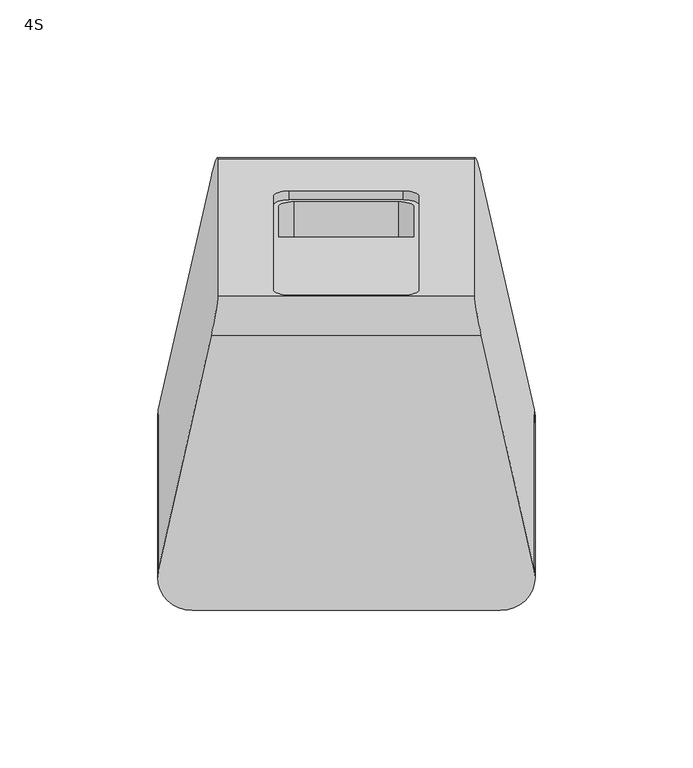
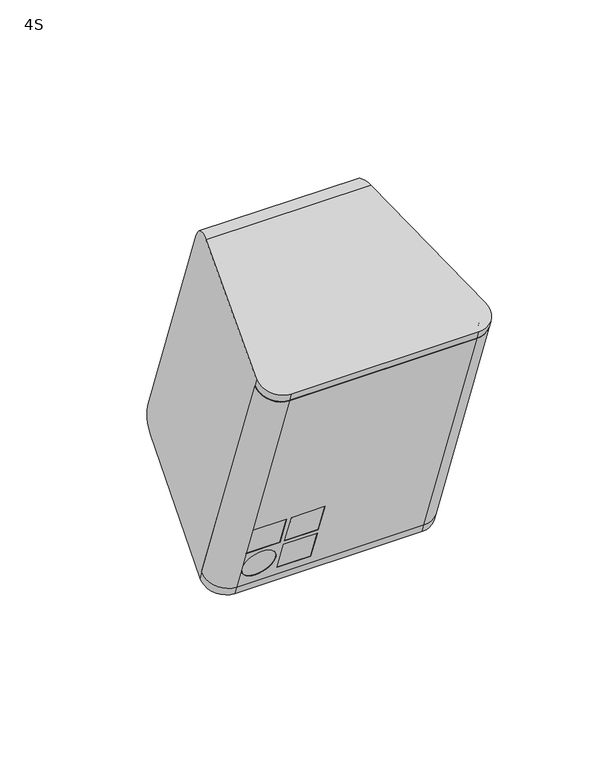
"""IFC4 building model written with IfcOpenShell, lengths in millimetres: proxy geometry, d&b xS-Series 4S Point Source : 4S."""

from ifc_helpers import new_model, si_unit, point, frame, frame_2d, origin, place, context, project, spatial, polyline, circle_curve, ellipse_curve, trimmed, segment, composite_curve, outline, extrude, source, transform, mapped, element, save
from ifc_brep_helpers import plane_surface, cylinder_surface, revolved_surface, advanced_brep


def proxy_4s_959aaee8(model_context):
    return source(origin(), model_context, "Body", "SolidModel", [
        extrude(outline(composite_curve([segment(polyline([(-2.2870286, -11.5470262), (-2.2870286, 97.3792888)]), True, "CONTINUOUS"), segment(trimmed(circle_curve(frame_2d((0.0, 91.8322626)), 6.0), [point((-2.2870286, 97.3792888))], [point((6.0, 91.8322626))], False, "CARTESIAN"), True, "CONTINUOUS"), segment(polyline([(6.0, 91.8322626), (6.0, -6.0)]), True, "CONTINUOUS"), segment(trimmed(circle_curve(frame_2d((0.0, -6.0)), 6.0), [point((6.0, -6.0))], [point((-2.2870286, -11.5470262))], False, "CARTESIAN"), True, "CONTINUOUS")], self_intersect=False)), frame((-42.9161313, -13.6462948, -79.4592892), z_axis=(0.0, -0.34202014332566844, 0.9396926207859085), x_axis=(0.0, -0.9396926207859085, -0.34202014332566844)), (0.0, 0.0, 1.0), 140.0),
        advanced_brep(
        [(-31.1772445, -38.5187697, -43.2845744), (-31.1772445, -33.8203066, -41.5744737), (-31.1772445, -27.8349541, -58.0190945), (-31.1772445, -32.5334172, -59.7291952), (-48.6772445, -27.8349541, -58.0190945), (-48.6772445, -32.5334172, -59.7291952), (-48.6772445, -33.8203066, -41.5744737), (-48.6772445, -38.5187697, -43.2845744), (-11.1772445, -38.5187697, -43.2845744), (-11.1772445, -33.8203066, -41.5744737), (-11.1772445, -27.8349541, -58.0190945), (-11.1772445, -32.5334172, -59.7291952), (-28.6772445, -27.8349541, -58.0190945), (-28.6772445, -32.5334172, -59.7291952), (-28.6772445, -33.8203066, -41.5744737), (-28.6772445, -38.5187697, -43.2845744), (-11.1772445, -31.6783669, -62.0784268), (-11.1772445, -26.9799037, -60.3683261), (-11.1772445, -20.9945512, -76.8129469), (-11.1772445, -25.6930143, -78.5230477), (-28.6772445, -20.9945512, -76.8129469), (-28.6772445, -25.6930143, -78.5230477), (-28.6772445, -26.9799037, -60.3683261), (-28.6772445, -31.6783669, -62.0784268), (-39.9272445, -25.6930143, -78.5230477), (-39.9272445, -20.9945512, -76.8129469), (-39.9272445, -26.9799037, -60.3683261), (-39.9272445, -31.6783669, -62.0784268), (48.9161313, -71.8657337, 48.3354561), (59.6757549, -59.380011, 52.8798876), (54.4631575, -59.380011, 52.8798876), (48.9161313, -67.1672706, 50.0455569), (-48.9161313, -67.1672706, 50.0455569), (-54.4631575, -59.380011, 52.8798876), (-59.6757549, -59.380011, 52.8798876), (-48.9161313, -71.8657337, 48.3354561), (48.9161313, -23.9829136, -83.2215108), (-48.9161313, -23.9829136, -83.2215108), (-59.6757549, -11.4971909, -78.6770793), (-54.4631575, -11.4971909, -78.6770793), (-48.9161313, -19.2844505, -81.51141), (48.9161313, -19.2844505, -81.51141), (54.4631575, -11.4971909, -78.6770793), (59.6757549, -11.4971909, -78.6770793)],
        [
            (0, 1),
            (1, 2),
            (2, 3),
            (3, 0),
            (2, 4),
            (4, 5),
            (5, 3),
            (4, 6),
            (6, 7),
            (7, 5),
            (0, 7),
            (6, 1),
            (8, 9),
            (9, 10),
            (10, 11),
            (11, 8),
            (10, 12),
            (12, 13),
            (13, 11),
            (12, 14),
            (14, 15),
            (15, 13),
            (8, 15),
            (14, 9),
            (16, 17),
            (17, 18),
            (18, 19),
            (19, 16),
            (18, 20),
            (20, 21),
            (21, 19),
            (20, 22),
            (22, 23),
            (23, 21),
            (16, 23),
            (22, 17),
            (24, 25),
            (25, 26, circle_curve(frame((-39.9272445, -23.9872275, -68.5906365), z_axis=(0.0, 0.939692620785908, 0.34202014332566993), x_axis=(0.0, -0.34202014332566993, 0.939692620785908)), 8.75)),
            (26, 27),
            (27, 24, circle_curve(frame((-39.9272445, -28.6856906, -70.3007372), z_axis=(0.0, -0.939692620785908, -0.34202014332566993), x_axis=(0.0, -0.34202014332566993, 0.939692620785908)), 8.75)),
            (24, 27, circle_curve(frame((-39.9272445, -28.6856906, -70.3007372), z_axis=(0.0, -0.939692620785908, -0.34202014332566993), x_axis=(0.0, -0.34202014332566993, 0.939692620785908)), 8.75)),
            (26, 25, circle_curve(frame((-39.9272445, -23.9872275, -68.5906365), z_axis=(0.0, 0.939692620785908, 0.34202014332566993), x_axis=(0.0, -0.34202014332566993, 0.939692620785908)), 8.75)),
            (28, 29, circle_curve(frame((48.9161313, -61.5291149, 52.0976777), z_axis=(0.0, -0.34202014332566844, 0.9396926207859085), x_axis=(0.0, -0.9396926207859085, -0.34202014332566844)), 11.0)),
            (29, 30),
            (30, 31, circle_curve(frame((48.9161313, -61.5291149, 52.0976777), z_axis=(0.0, 0.34202014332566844, -0.9396926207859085), x_axis=(0.0, -0.9396926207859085, -0.34202014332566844)), 6.0)),
            (31, 32),
            (32, 33, circle_curve(frame((-48.9161313, -61.5291149, 52.0976777), z_axis=(0.0, 0.34202014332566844, -0.9396926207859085), x_axis=(0.0, -0.9396926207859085, -0.34202014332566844)), 6.0)),
            (33, 34),
            (34, 35, circle_curve(frame((-48.9161313, -61.5291149, 52.0976777), z_axis=(0.0, -0.34202014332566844, 0.9396926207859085), x_axis=(0.0, -0.9396926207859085, -0.34202014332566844)), 11.0)),
            (35, 28),
            (36, 37),
            (37, 38, circle_curve(frame((-48.9161313, -13.6462948, -79.4592892), z_axis=(0.0, 0.34202014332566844, -0.9396926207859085), x_axis=(0.0, -0.9396926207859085, -0.34202014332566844)), 11.0)),
            (38, 39),
            (39, 40, circle_curve(frame((-48.9161313, -13.6462948, -79.4592892), z_axis=(0.0, -0.34202014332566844, 0.9396926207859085), x_axis=(0.0, -0.9396926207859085, -0.34202014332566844)), 6.0)),
            (40, 41),
            (41, 42, circle_curve(frame((48.9161313, -13.6462948, -79.4592892), z_axis=(0.0, -0.34202014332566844, 0.9396926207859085), x_axis=(0.0, -0.9396926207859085, -0.34202014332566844)), 6.0)),
            (42, 43),
            (43, 36, circle_curve(frame((48.9161313, -13.6462948, -79.4592892), z_axis=(0.0, 0.34202014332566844, -0.9396926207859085), x_axis=(0.0, -0.9396926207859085, -0.34202014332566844)), 11.0)),
            (28, 36),
            (43, 29),
            (42, 30),
            (41, 31),
            (40, 32),
            (39, 33),
            (38, 34),
            (37, 35),
        ],
        [
            plane_surface(frame((-31.1772445, -32.5334172, -59.7291952), z_axis=(-1.0000000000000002, 0.0, 0.0), x_axis=(0.0, 0.939692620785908, 0.34202014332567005))),
            plane_surface(frame((-48.6772445, -32.5334172, -59.7291952), z_axis=(0.0, -0.34202014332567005, 0.939692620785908), x_axis=(0.0, 0.939692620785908, 0.34202014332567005))),
            plane_surface(frame((-48.6772445, -38.5187697, -43.2845744), z_axis=(1.0000000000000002, 0.0, 0.0), x_axis=(0.0, 0.939692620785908, 0.34202014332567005))),
            plane_surface(frame((-31.1772445, -38.5187697, -43.2845744), z_axis=(0.0, 0.34202014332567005, -0.939692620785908), x_axis=(0.0, 0.939692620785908, 0.34202014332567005))),
            plane_surface(frame((-11.1772445, -32.5334172, -59.7291952), z_axis=(-1.0000000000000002, 0.0, 0.0), x_axis=(0.0, 0.939692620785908, 0.34202014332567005))),
            plane_surface(frame((-28.6772445, -32.5334172, -59.7291952), z_axis=(0.0, -0.34202014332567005, 0.939692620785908), x_axis=(0.0, 0.939692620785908, 0.34202014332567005))),
            plane_surface(frame((-28.6772445, -38.5187697, -43.2845744), z_axis=(1.0000000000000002, 0.0, 0.0), x_axis=(0.0, 0.939692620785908, 0.34202014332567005))),
            plane_surface(frame((-11.1772445, -38.5187697, -43.2845744), z_axis=(0.0, 0.34202014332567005, -0.939692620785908), x_axis=(0.0, 0.939692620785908, 0.34202014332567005))),
            plane_surface(frame((-11.1772445, -25.6930143, -78.5230477), z_axis=(-1.0000000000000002, 0.0, 0.0), x_axis=(0.0, 0.939692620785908, 0.34202014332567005))),
            plane_surface(frame((-28.6772445, -25.6930143, -78.5230477), z_axis=(0.0, -0.34202014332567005, 0.939692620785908), x_axis=(0.0, 0.939692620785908, 0.34202014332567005))),
            plane_surface(frame((-28.6772445, -31.6783669, -62.0784268), z_axis=(1.0000000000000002, 0.0, 0.0), x_axis=(0.0, 0.939692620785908, 0.34202014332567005))),
            plane_surface(frame((-11.1772445, -31.6783669, -62.0784268), z_axis=(0.0, 0.34202014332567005, -0.939692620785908), x_axis=(0.0, 0.939692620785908, 0.34202014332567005))),
            revolved_surface(polyline([(-39.9272445, -31.678366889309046, -62.07842682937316), (-39.9272445, -26.979903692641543, -60.36832607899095)]), (-39.9272445, -114.4304887, -101.5092915), (0.0, -0.939692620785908, -0.34202014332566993)),
            plane_surface(frame((48.9161313, -71.8657337, 48.3354561), z_axis=(0.0, -0.34202014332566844, 0.9396926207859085), x_axis=(1.0, 0.0, 0.0))),
            plane_surface(frame((48.9161313, -23.9829136, -83.2215108), z_axis=(0.0, 0.34202014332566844, -0.9396926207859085), x_axis=(-1.0, 0.0, 0.0))),
            cylinder_surface(frame((48.9161313, -13.6462948, -79.4592892), z_axis=(0.0, -0.34202014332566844, 0.9396926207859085), x_axis=(0.0, -0.9396926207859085, -0.34202014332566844)), 11.0),
            plane_surface(frame((59.6757549, -59.380011, 52.8798876), z_axis=(0.0, 0.9396926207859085, 0.34202014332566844), x_axis=(0.0, 0.34202014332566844, -0.9396926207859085))),
            revolved_surface(polyline([(48.9161313, -19.284450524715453, -81.51141005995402), (48.9161313, -67.16727060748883, 50.04555689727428)]), (48.9161313, -13.6462948, -79.4592892), (0.0, 0.34202014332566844, -0.9396926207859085)),
            plane_surface(frame((48.9161313, -67.1672706, 50.0455569), z_axis=(0.0, 0.9396926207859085, 0.34202014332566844), x_axis=(0.0, 0.34202014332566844, -0.9396926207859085))),
            revolved_surface(polyline([(-48.9161313, -19.284450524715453, -81.51141005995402), (-48.9161313, -67.16727060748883, 50.04555689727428)]), (-48.9161313, -13.6462948, -79.4592892), (0.0, 0.34202014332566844, -0.9396926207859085)),
            plane_surface(frame((-54.4631575, -59.380011, 52.8798876), z_axis=(0.0, 0.9396926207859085, 0.34202014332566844), x_axis=(0.0, 0.34202014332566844, -0.9396926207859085))),
            cylinder_surface(frame((-48.9161313, -13.6462948, -79.4592892), z_axis=(0.0, -0.34202014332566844, 0.9396926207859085), x_axis=(0.0, -0.9396926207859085, -0.34202014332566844)), 11.0),
            plane_surface(frame((-48.9161313, -71.8657337, 48.3354561), z_axis=(0.0, -0.9396926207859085, -0.34202014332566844), x_axis=(0.0, 0.34202014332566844, -0.9396926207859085))),
        ],
        [
            (0, [[1, 2, 3, 4]]),
            (1, [[-3, 5, 6, 7]]),
            (2, [[-6, 8, 9, 10]]),
            (3, [[-1, 11, -9, 12]]),
            (4, [[13, 14, 15, 16]]),
            (5, [[-15, 17, 18, 19]]),
            (6, [[-18, 20, 21, 22]]),
            (7, [[-13, 23, -21, 24]]),
            (8, [[25, 26, 27, 28]]),
            (9, [[-27, 29, 30, 31]]),
            (10, [[-30, 32, 33, 34]]),
            (11, [[-25, 35, -33, 36]]),
            (12, [[37, 38, 39, 40]]),
            (12, [[-37, 41, -39, 42]]),
            (13, [[43, 44, 45, 46, 47, 48, 49, 50]]),
            (14, [[51, 52, 53, 54, 55, 56, 57, 58]]),
            (15, [[-43, 59, -58, 60]]),
            (16, [[-44, -60, -57, 61]]),
            (17, [[-45, -61, -56, 62]]),
            (18, [[-46, -62, -55, 63], [-2, -12, -8, -5], [-14, -24, -20, -17], [-26, -36, -32, -29], [-38, -42]]),
            (19, [[-47, -63, -54, 64]]),
            (20, [[-48, -64, -53, 65]]),
            (21, [[-49, -65, -52, 66]]),
            (22, [[-50, -66, -51, -59], [-4, -7, -10, -11], [-16, -19, -22, -23], [-28, -31, -34, -35], [-40, -41]]),
        ],
    ),
        extrude(outline(polyline([(0.0, -17.5), (0.0, 0.0), (5.0, 0.0), (5.0, -17.5), (0.0, -17.5)])), frame((-48.6622558, -32.5334172, -59.7291952), z_axis=(0.0, -0.34202014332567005, 0.939692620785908), x_axis=(0.0, 0.939692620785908, 0.34202014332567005)), (0.0, 0.0, 1.0), 17.5),
        extrude(outline(polyline([(0.0, -17.5), (0.0, 0.0), (5.0, 0.0), (5.0, -17.5), (0.0, -17.5)])), frame((-28.6622558, -32.5334172, -59.7291952), z_axis=(0.0, -0.34202014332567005, 0.939692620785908), x_axis=(0.0, 0.939692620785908, 0.34202014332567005)), (0.0, 0.0, 1.0), 17.5),
        extrude(outline(polyline([(0.0, -17.5), (0.0, 0.0), (5.0, 0.0), (5.0, -17.5), (0.0, -17.5)])), frame((-28.6622558, -25.6930143, -78.5230477), z_axis=(0.0, -0.34202014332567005, 0.939692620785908), x_axis=(0.0, 0.939692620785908, 0.34202014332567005)), (0.0, 0.0, 1.0), 17.5),
        extrude(outline(composite_curve([segment(trimmed(circle_curve(frame_2d((-8.75, -28.7499999)), 8.75), [point((-8.75, -37.5))], [point((-8.75, -20.0))], False, "CARTESIAN"), True, "CONTINUOUS"), segment(trimmed(circle_curve(frame_2d((-8.75, -28.7499999)), 8.75), [point((-8.75, -20.0))], [point((-8.75, -37.5))], False, "CARTESIAN"), True, "CONTINUOUS")], self_intersect=False)), frame((-48.6622558, -38.5187697, -43.2845744), z_axis=(0.0, 0.939692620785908, 0.34202014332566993), x_axis=(-1.0, 0.0, 0.0)), (0.0, 0.0, 1.0), 5.0),
        advanced_brep(
        [(-23.0610927, 25.4630749, 70.3833879), (-18.0610927, 23.7529742, 75.081851), (18.0610927, 23.7529742, 75.081851), (23.0610927, 25.4630749, 70.3833879), (23.0610927, 55.0447249, -10.8915275), (18.0610927, 56.7548256, -15.5899906), (-18.0610927, 56.7548256, -15.5899906), (-23.0610927, 55.0447249, -10.8915275), (-16.4913486, 56.2179415, -14.1149137), (16.4913486, 56.2179415, -14.1149137), (21.4913486, 54.5078408, -9.4164506), (21.4913486, 45.1327614, 16.3413684), (-21.4913486, 45.1327614, 16.3413684), (-21.4913486, 54.5078408, -9.4164506), (-23.0610927, 28.2821528, 71.4094483), (-18.0610927, 26.5720521, 76.1079114), (18.0610927, 26.5720521, 76.1079114), (23.0610927, 28.2821528, 71.4094483), (23.0610927, 57.8638028, -9.8654671), (18.0610927, 59.5739035, -14.5639302), (-18.0610927, 59.5739035, -14.5639302), (-23.0610927, 57.8638028, -9.8654671), (16.4913486, 41.1828596, -19.587236), (-16.4913486, 41.1828596, -19.587236), (-21.4913486, 39.4727589, -14.8887729), (-21.4913486, 30.0976794, 10.8690461), (21.4913486, 30.0976794, 10.8690461), (21.4913486, 39.4727589, -14.8887729), (48.9161313, -71.8657337, 48.3354561), (-48.9161313, -71.8657337, 48.3354561), (-59.6757549, -59.380011, 52.8798876), (59.6757549, -59.380011, 52.8798876), (48.9161313, -23.9829136, -83.2215108), (59.6757549, -11.4971909, -78.6770793), (-59.6757549, -11.4971909, -78.6770793), (-48.9161313, -23.9829136, -83.2215108), (59.6757549, -9.8836267, -83.1103106), (42.9086571, 63.7833622, -54.8702565), (40.8192307, 69.6008131, -42.112638), (40.8192307, 26.2456822, 77.0046053), (42.9086571, 13.5888171, 83.0381227), (59.6757549, -60.9957272, 57.3190315), (-42.9086571, 63.7833622, -54.8702565), (-59.6757549, -9.8836267, -83.1103106), (-59.6757549, -60.9957272, 57.3190315), (-42.9086571, 13.5888171, 83.0381227), (-40.8192307, 26.2456822, 77.0046053), (-40.8192307, 69.6008131, -42.112638), (48.9161313, -73.5587263, 52.9869152), (-48.9161313, -73.5587263, 52.9869152), (48.9161313, -22.292073, -87.8670572), (-48.9161313, -22.292073, -87.8670572)],
        [
            (0, 1, circle_curve(frame((-18.0610927, 25.4630749, 70.3833879), z_axis=(0.0, 0.9396926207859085, 0.34202014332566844), x_axis=(-1.0, 0.0, 0.0)), 5.0)),
            (1, 2),
            (2, 3, circle_curve(frame((18.0610927, 25.4630749, 70.3833879), z_axis=(0.0, 0.9396926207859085, 0.34202014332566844), x_axis=(-1.0, 0.0, 0.0)), 5.0)),
            (3, 4),
            (4, 5, circle_curve(frame((18.0610927, 55.0447249, -10.8915275), z_axis=(0.0, 0.9396926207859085, 0.34202014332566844), x_axis=(-1.0, 0.0, 0.0)), 5.0)),
            (5, 6),
            (6, 7, circle_curve(frame((-18.0610927, 55.0447249, -10.8915275), z_axis=(0.0, 0.9396926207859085, 0.34202014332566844), x_axis=(-1.0, 0.0, 0.0)), 5.0)),
            (7, 0),
            (8, 9),
            (9, 10, circle_curve(frame((16.4913486, 54.5078408, -9.4164506), z_axis=(0.0, -0.9396926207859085, -0.34202014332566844), x_axis=(-1.0, 0.0, 0.0)), 5.0)),
            (10, 11),
            (11, 12),
            (12, 13),
            (13, 8, circle_curve(frame((-16.4913486, 54.5078408, -9.4164506), z_axis=(0.0, -0.9396926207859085, -0.34202014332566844), x_axis=(-1.0, 0.0, 0.0)), 5.0)),
            (0, 14),
            (14, 15, circle_curve(frame((-18.0610927, 28.2821528, 71.4094483), z_axis=(0.0, 0.9396926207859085, 0.34202014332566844), x_axis=(-1.0, 0.0, 0.0)), 5.0)),
            (15, 1),
            (15, 16),
            (16, 2),
            (16, 17, circle_curve(frame((18.0610927, 28.2821528, 71.4094483), z_axis=(0.0, 0.9396926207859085, 0.34202014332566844), x_axis=(-1.0, 0.0, 0.0)), 5.0)),
            (17, 3),
            (17, 18),
            (18, 4),
            (18, 19, circle_curve(frame((18.0610927, 57.8638028, -9.8654671), z_axis=(0.0, 0.9396926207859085, 0.34202014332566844), x_axis=(-1.0, 0.0, 0.0)), 5.0)),
            (19, 5),
            (19, 20),
            (20, 6),
            (20, 21, circle_curve(frame((-18.0610927, 57.8638028, -9.8654671), z_axis=(0.0, 0.9396926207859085, 0.34202014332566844), x_axis=(-1.0, 0.0, 0.0)), 5.0)),
            (21, 7),
            (21, 14),
            (22, 23),
            (23, 24, circle_curve(frame((-16.4913486, 39.4727589, -14.8887729), z_axis=(0.0, 0.9396926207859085, 0.34202014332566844), x_axis=(-1.0, 0.0, 0.0)), 5.0)),
            (24, 25),
            (25, 26),
            (26, 27),
            (27, 22, circle_curve(frame((16.4913486, 39.4727589, -14.8887729), z_axis=(0.0, 0.9396926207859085, 0.34202014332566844), x_axis=(-1.0, 0.0, 0.0)), 5.0)),
            (28, 29),
            (29, 30, circle_curve(frame((-48.9161313, -61.5291149, 52.0976777), z_axis=(0.0, 0.34202014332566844, -0.9396926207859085), x_axis=(0.0, -0.9396926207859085, -0.34202014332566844)), 11.0)),
            (30, 31),
            (31, 28, circle_curve(frame((48.9161313, -61.5291149, 52.0976777), z_axis=(0.0, 0.34202014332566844, -0.9396926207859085), x_axis=(0.0, -0.9396926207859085, -0.34202014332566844)), 11.0)),
            (32, 33, circle_curve(frame((48.9161313, -13.6462948, -79.4592892), z_axis=(0.0, -0.34202014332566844, 0.9396926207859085), x_axis=(0.0, -0.9396926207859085, -0.34202014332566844)), 11.0)),
            (33, 34),
            (34, 35, circle_curve(frame((-48.9161313, -13.6462948, -79.4592892), z_axis=(0.0, -0.34202014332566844, 0.9396926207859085), x_axis=(0.0, -0.9396926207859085, -0.34202014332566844)), 11.0)),
            (35, 32),
            (22, 9),
            (8, 23),
            (13, 24),
            (12, 25),
            (11, 26),
            (10, 27),
            (36, 37),
            (37, 38, ellipse_curve(frame((42.9447963, 60.2038869, -45.5328395), z_axis=(0.9781476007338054, 0.1953730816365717, 0.0711099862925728), x_axis=(-0.20791169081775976, 0.9191580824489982, 0.3345461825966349)), 10.2234059, 10.0)),
            (38, 39),
            (39, 40, ellipse_curve(frame((42.9447963, 16.8487559, 73.5844039), z_axis=(0.9781476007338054, 0.1953730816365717, 0.0711099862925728), x_axis=(-0.20791169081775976, 0.9191580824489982, 0.3345461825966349)), 10.2234059, 10.0)),
            (40, 41),
            (41, 31),
            (31, 33),
            (33, 36),
            (30, 34),
            (42, 43),
            (43, 34),
            (30, 44),
            (44, 45),
            (45, 46, ellipse_curve(frame((-42.9447963, 16.8487559, 73.5844039), z_axis=(-0.9781476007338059, 0.19537308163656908, 0.07110998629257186), x_axis=(-0.20791169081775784, -0.9191580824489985, -0.33454618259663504)), 10.2234059, 10.0)),
            (46, 47),
            (47, 42, ellipse_curve(frame((-42.9447963, 60.2038869, -45.5328395), z_axis=(-0.9781476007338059, 0.19537308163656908, 0.07110998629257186), x_axis=(-0.20791169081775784, -0.9191580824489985, -0.33454618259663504)), 10.2234059, 10.0)),
            (38, 47),
            (46, 39),
            (41, 48, ellipse_curve(frame((48.9161313, -63.1581323, 56.5733664), z_axis=(0.0, 0.3259938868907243, -0.9453718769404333), x_axis=(0.0, -0.9453718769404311, -0.32599388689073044)), 11.0015903, 11.0)),
            (48, 28),
            (29, 49),
            (49, 44, ellipse_curve(frame((-48.9161313, -63.1581323, 56.5733664), z_axis=(0.0, 0.3259938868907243, -0.9453718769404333), x_axis=(0.0, -0.9453718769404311, -0.32599388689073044)), 11.0015903, 11.0)),
            (48, 49),
            (32, 50),
            (50, 36, ellipse_curve(frame((48.9161313, -12.0194294, -83.9290652), z_axis=(0.0, -0.3579475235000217, 0.9337417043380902), x_axis=(0.0, 0.933741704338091, 0.35794752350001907)), 11.0015903, 11.0)),
            (43, 51, ellipse_curve(frame((-48.9161313, -12.0194294, -83.9290652), z_axis=(0.0, -0.3579475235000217, 0.9337417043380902), x_axis=(0.0, 0.933741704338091, 0.35794752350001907)), 11.0015903, 11.0)),
            (51, 35),
            (51, 50),
            (40, 45),
            (42, 37),
        ],
        [
            plane_surface(frame((-23.0610927, 25.4630749, 70.3833879), z_axis=(0.0, 0.9396926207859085, 0.34202014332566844), x_axis=(0.0, 0.34202014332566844, -0.9396926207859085))),
            revolved_surface(polyline([(-23.0610927, 28.282152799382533, 71.40944834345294), (-23.0610927, 25.4630749, 70.3833879)]), (-18.0610927, 25.4630749, 70.3833879), (0.0, 0.9396926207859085, 0.34202014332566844)),
            plane_surface(frame((-18.0610927, 26.5720521, 76.1079114), z_axis=(0.0, 0.34202014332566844, -0.9396926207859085), x_axis=(0.0, -0.9396926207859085, -0.34202014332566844))),
            revolved_surface(polyline([(13.0610927, 28.282152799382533, 71.40944834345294), (13.0610927, 25.4630749, 70.3833879)]), (18.0610927, 25.4630749, 70.3833879), (0.0, 0.9396926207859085, 0.34202014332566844)),
            plane_surface(frame((23.0610927, 28.2821528, 71.4094483), z_axis=(-1.0, 0.0, 0.0), x_axis=(0.0, -0.9396926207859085, -0.34202014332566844))),
            revolved_surface(polyline([(13.0610927, 57.86380278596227, -9.865467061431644), (13.0610927, 55.04472488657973, -10.891527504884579)]), (18.0610927, 55.0447249, -10.8915275), (0.0, 0.9396926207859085, 0.34202014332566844)),
            plane_surface(frame((18.0610927, 59.5739035, -14.5639302), z_axis=(0.0, -0.34202014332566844, 0.9396926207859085), x_axis=(0.0, -0.9396926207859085, -0.34202014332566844))),
            revolved_surface(polyline([(-23.0610927, 57.86380278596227, -9.865467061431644), (-23.0610927, 55.04472488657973, -10.891527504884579)]), (-18.0610927, 55.0447249, -10.8915275), (0.0, 0.9396926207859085, 0.34202014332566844)),
            plane_surface(frame((-23.0610927, 57.8638028, -9.8654671), z_axis=(1.0, 0.0, 0.0), x_axis=(0.0, -0.9396926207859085, -0.34202014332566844))),
            plane_surface(frame((-10.0, 41.1828596, -19.587236), z_axis=(0.0, 0.9396926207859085, 0.34202014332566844), x_axis=(1.0, 0.0, 0.0))),
            plane_surface(frame((48.9161313, -71.8657337, 48.3354561), z_axis=(0.0, 0.34202014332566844, -0.9396926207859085), x_axis=(-1.0, 0.0, 0.0))),
            plane_surface(frame((48.9161313, -23.9829136, -83.2215108), z_axis=(0.0, -0.34202014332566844, 0.9396926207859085), x_axis=(1.0, 0.0, 0.0))),
            plane_surface(frame((16.4913486, 59.0370194, -13.0888532), z_axis=(0.0, -0.34202014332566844, 0.9396926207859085), x_axis=(0.0, -0.9396926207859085, -0.34202014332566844))),
            revolved_surface(polyline([(-21.4913486, 54.50784080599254, -9.416450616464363), (-21.4913486, 39.47275888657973, -14.888772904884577)]), (-16.4913486, 39.4727589, -14.8887729), (0.0, 0.9396926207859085, 0.34202014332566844)),
            plane_surface(frame((-21.4913486, 57.3269187, -8.3903901), z_axis=(1.0, 0.0, 0.0), x_axis=(0.0, -0.9396926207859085, -0.34202014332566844))),
            plane_surface(frame((-21.4913486, 47.9518392, 17.3674289), z_axis=(0.0, 0.34202014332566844, -0.9396926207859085), x_axis=(0.0, -0.9396926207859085, -0.34202014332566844))),
            plane_surface(frame((21.4913486, 47.9518392, 17.3674289), z_axis=(-1.0, 0.0, 0.0), x_axis=(0.0, -0.9396926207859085, -0.34202014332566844))),
            revolved_surface(polyline([(11.491348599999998, 54.50784080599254, -9.416450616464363), (11.491348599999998, 39.47275888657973, -14.888772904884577)]), (16.4913486, 39.4727589, -14.8887729), (0.0, 0.9396926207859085, 0.34202014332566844)),
            plane_surface(frame((40.8192307, 73.5565743, -52.9810025), z_axis=(0.9781476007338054, 0.1953730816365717, 0.0711099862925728), x_axis=(0.0, -0.34202014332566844, 0.9396926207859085))),
            plane_surface(frame((59.6757549, -9.8063503, -83.3226257), z_axis=(0.0, -0.9396926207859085, -0.34202014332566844), x_axis=(0.0, -0.34202014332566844, 0.9396926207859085))),
            plane_surface(frame((-59.6757549, -9.8063503, -83.3226257), z_axis=(-0.9781476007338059, 0.19537308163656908, 0.07110998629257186), x_axis=(0.0, -0.34202014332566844, 0.9396926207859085))),
            plane_surface(frame((-40.8192307, 73.5565743, -52.9810025), z_axis=(0.0, 0.9396926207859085, 0.34202014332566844), x_axis=(0.0, -0.34202014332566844, 0.9396926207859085))),
            cylinder_surface(frame((48.9161313, -61.5291149, 52.0976777), z_axis=(0.0, -0.34202014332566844, 0.9396926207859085), x_axis=(0.0, -0.9396926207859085, -0.34202014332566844)), 11.0),
            cylinder_surface(frame((-48.9161313, -61.5291149, 52.0976777), z_axis=(0.0, -0.34202014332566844, 0.9396926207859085), x_axis=(0.0, -0.9396926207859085, -0.34202014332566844)), 11.0),
            plane_surface(frame((-48.9161313, -73.5587263, 52.9869152), z_axis=(0.0, -0.9396926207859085, -0.34202014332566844), x_axis=(0.0, 0.34202014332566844, -0.9396926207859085))),
            cylinder_surface(frame((48.9161313, -11.9554542, -84.1048356), z_axis=(0.0, -0.34202014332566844, 0.9396926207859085), x_axis=(0.0, -0.9396926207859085, -0.34202014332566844)), 11.0),
            cylinder_surface(frame((-48.9161313, -11.9554542, -84.1048356), z_axis=(0.0, -0.34202014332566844, 0.9396926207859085), x_axis=(0.0, -0.9396926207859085, -0.34202014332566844)), 11.0),
            plane_surface(frame((-48.9161313, -23.9829136, -83.2215108), z_axis=(0.0, -0.9396926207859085, -0.34202014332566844), x_axis=(0.0, 0.34202014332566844, -0.9396926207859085))),
            plane_surface(frame((65.0, -79.4312202, 50.961895), z_axis=(0.0, -0.3259938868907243, 0.9453718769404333), x_axis=(-1.0, 0.0, 0.0))),
            cylinder_surface(frame((-65.0, 16.8487559, 73.5844039), z_axis=(-1.0, 0.0, 0.0), x_axis=(0.0, 0.9396926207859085, 0.34202014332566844)), 10.0),
            plane_surface(frame((65.0, 63.7833622, -54.8702565), z_axis=(0.0, 0.3579475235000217, -0.9337417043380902), x_axis=(-1.0, 0.0, 0.0))),
            cylinder_surface(frame((-65.0, 60.2038869, -45.5328395), z_axis=(-1.0, 0.0, 0.0), x_axis=(0.0, 0.9396926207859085, 0.34202014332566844)), 10.0),
        ],
        [
            (0, [[1, 2, 3, 4, 5, 6, 7, 8], [9, 10, 11, 12, 13, 14]]),
            (1, [[-1, 15, 16, 17]]),
            (2, [[-2, -17, 18, 19]]),
            (3, [[-3, -19, 20, 21]]),
            (4, [[-4, -21, 22, 23]]),
            (5, [[-5, -23, 24, 25]]),
            (6, [[-6, -25, 26, 27]]),
            (7, [[-7, -27, 28, 29]]),
            (8, [[-8, -29, 30, -15]]),
            (9, [[31, 32, 33, 34, 35, 36]]),
            (10, [[37, 38, 39, 40]]),
            (11, [[41, 42, 43, 44]]),
            (12, [[-31, 45, -9, 46]]),
            (13, [[-32, -46, -14, 47]]),
            (14, [[-33, -47, -13, 48]]),
            (15, [[-34, -48, -12, 49]]),
            (16, [[-35, -49, -11, 50]]),
            (17, [[-36, -50, -10, -45]]),
            (18, [[51, 52, 53, 54, 55, 56, 57, 58]]),
            (19, [[-39, 59, -42, -57]]),
            (20, [[60, 61, -59, 62, 63, 64, 65, 66]]),
            (21, [[67, -65, 68, -53], [-16, -30, -28, -26, -24, -22, -20, -18]]),
            (22, [[-40, -56, 69, 70]]),
            (23, [[-38, 71, 72, -62]]),
            (24, [[-37, -70, 73, -71]]),
            (25, [[-41, 74, 75, -58]]),
            (26, [[-43, -61, 76, 77]]),
            (27, [[-44, -77, 78, -74]]),
            (28, [[79, -63, -72, -73, -69, -55]]),
            (29, [[-79, -54, -68, -64]]),
            (30, [[80, -51, -75, -78, -76, -60]]),
            (31, [[-80, -66, -67, -52]]),
        ],
    ),
    ])


if __name__ == "__main__":
    model = new_model("IFC4")
    model_context = context("Model", 3, world=origin())
    ifc_project = project(units=[si_unit("LENGTHUNIT", "METRE", prefix="MILLI")], contexts=[model_context])
    site = spatial("IfcSite", under=ifc_project)
    building = spatial("IfcBuilding", under=site)
    placement = place(None, origin())
    proxy_4s_shape = proxy_4s_959aaee8(model_context)
    element("IfcBuildingElementProxy", 1, Name="d&b xS-Series 4S Point Source : 4S", ObjectType="d&b xS-Series 4S Point Source : 4S", at=placement, inside=building, context=model_context, shape_type="MappedRepresentation", body=[
        mapped(proxy_4s_shape, transform((0.0, 0.0, 0.0), x_axis=(1.0, 0.0, 0.0), y_axis=(0.0, 1.0, 0.0), z_axis=(0.0, 0.0, 1.0))),
    ])
    save(model, "model.ifc")
